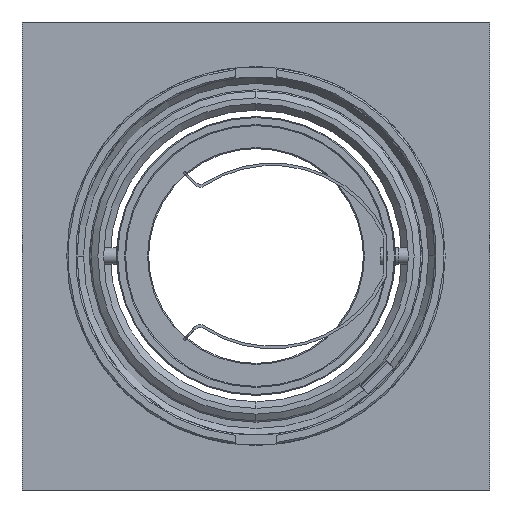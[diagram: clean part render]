
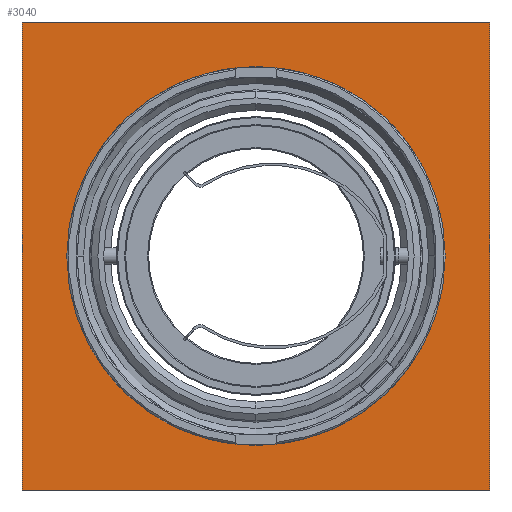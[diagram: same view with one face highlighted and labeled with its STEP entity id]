
A CAD part, front view. The second image highlights one B-rep face of the part: STEP entity #3040.
In plain terms, the highlighted planar face has unit normal (0, -1, 0) as drawn and (0, 0, -1) by its records, which use the part's own axes.
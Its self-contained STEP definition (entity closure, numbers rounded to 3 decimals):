
#62=FACE_BOUND('',#555,.T.);
#224=PLANE('',#3348);
#367=FACE_OUTER_BOUND('',#554,.T.);
#554=EDGE_LOOP('',(#2661,#2662,#2663,#2664));
#555=EDGE_LOOP('',(#2665,#2666));
#782=LINE('',#5944,#1002);
#786=LINE('',#5952,#1006);
#789=LINE('',#5958,#1009);
#792=LINE('',#5963,#1012);
#1002=VECTOR('',#4125,304.8);
#1006=VECTOR('',#4131,304.8);
#1009=VECTOR('',#4136,304.8);
#1012=VECTOR('',#4141,304.8);
#1169=CIRCLE('',#3349,35.4);
#1170=CIRCLE('',#3350,35.4);
#1437=VERTEX_POINT('',#5942);
#1438=VERTEX_POINT('',#5943);
#1441=VERTEX_POINT('',#5951);
#1443=VERTEX_POINT('',#5957);
#1445=VERTEX_POINT('',#5966);
#1446=VERTEX_POINT('',#5967);
#1859=EDGE_CURVE('',#1437,#1438,#782,.T.);
#1863=EDGE_CURVE('',#1441,#1437,#786,.T.);
#1866=EDGE_CURVE('',#1443,#1441,#789,.T.);
#1869=EDGE_CURVE('',#1438,#1443,#792,.T.);
#1871=EDGE_CURVE('',#1445,#1446,#1169,.T.);
#1872=EDGE_CURVE('',#1446,#1445,#1170,.T.);
#2661=ORIENTED_EDGE('',*,*,#1869,.T.);
#2662=ORIENTED_EDGE('',*,*,#1866,.T.);
#2663=ORIENTED_EDGE('',*,*,#1863,.T.);
#2664=ORIENTED_EDGE('',*,*,#1859,.T.);
#2665=ORIENTED_EDGE('',*,*,#1871,.F.);
#2666=ORIENTED_EDGE('',*,*,#1872,.F.);
#3040=ADVANCED_FACE('',(#367,#62),#224,.T.);
#3348=AXIS2_PLACEMENT_3D('',#5965,#4143,#4144);
#3349=AXIS2_PLACEMENT_3D('',#5968,#4145,#4146);
#3350=AXIS2_PLACEMENT_3D('',#5969,#4147,#4148);
#4125=DIRECTION('',(0.,-1.,0.));
#4131=DIRECTION('',(1.,0.,0.));
#4136=DIRECTION('',(0.,1.,0.));
#4141=DIRECTION('',(-1.,0.,0.));
#4143=DIRECTION('center_axis',(0.,0.,-1.));
#4144=DIRECTION('ref_axis',(-1.,0.,0.));
#4145=DIRECTION('center_axis',(0.,0.,-1.));
#4146=DIRECTION('ref_axis',(-1.,0.,0.));
#4147=DIRECTION('center_axis',(0.,0.,-1.));
#4148=DIRECTION('ref_axis',(-1.,0.,0.));
#5942=CARTESIAN_POINT('',(45.75,45.75,-3.1));
#5943=CARTESIAN_POINT('',(45.75,-45.75,-3.1));
#5944=CARTESIAN_POINT('',(45.75,45.75,-3.1));
#5951=CARTESIAN_POINT('',(-45.75,45.75,-3.1));
#5952=CARTESIAN_POINT('',(-45.75,45.75,-3.1));
#5957=CARTESIAN_POINT('',(-45.75,-45.75,-3.1));
#5958=CARTESIAN_POINT('',(-45.75,-45.75,-3.1));
#5963=CARTESIAN_POINT('',(45.75,-45.75,-3.1));
#5965=CARTESIAN_POINT('Origin',(0.,0.,
-3.1));
#5966=CARTESIAN_POINT('',(35.4,0.,-3.1));
#5967=CARTESIAN_POINT('',(-35.4,0.,-3.1));
#5968=CARTESIAN_POINT('Origin',(0.,0.,
-3.1));
#5969=CARTESIAN_POINT('Origin',(0.,0.,
-3.1));
